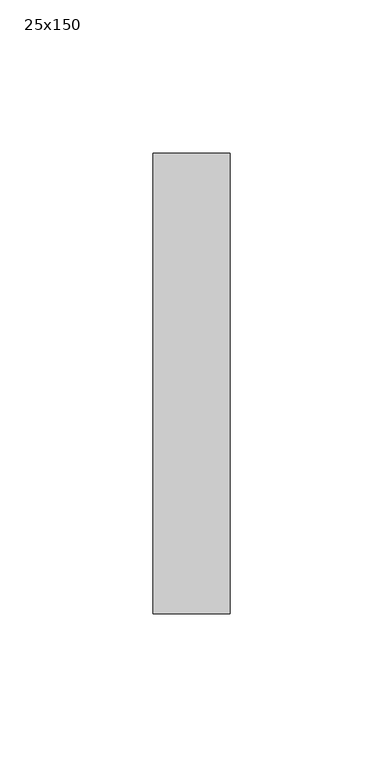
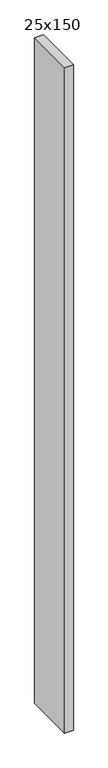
"""IFC4 building model written with IfcOpenShell, lengths in millimetres: member geometry, 長方形のマリオン : 25x150."""

from ifc_helpers import new_model, si_unit, frame, origin, place, context, project, spatial, polyline, outline, extrude, source, transform, mapped, element, save


def member_25x150_4c9d34cf(model_context):
    return source(origin(), model_context, "Body", "SweptSolid", [
        extrude(outline(polyline([(0.0, 75.0), (0.0, -75.0), (-25.0, -75.0), (-25.0, 75.0), (0.0, 75.0)])), frame((0.0, 0.0, -2033.3333331), z_axis=(0.0, 0.0, 1.0), x_axis=(1.0, 0.0, 0.0)), (0.0, 0.0, 1.0), 2033.3333331),
    ])


if __name__ == "__main__":
    model = new_model("IFC4")
    model_context = context("Model", 3, world=origin())
    ifc_project = project(units=[si_unit("LENGTHUNIT", "METRE", prefix="MILLI")], contexts=[model_context])
    site = spatial("IfcSite", under=ifc_project)
    building = spatial("IfcBuilding", under=site)
    placement = place(None, origin())
    member_25x150_shape = member_25x150_4c9d34cf(model_context)
    element("IfcMember", 1, ObjectType="長方形のマリオン : 25x150", at=placement, inside=building, context=model_context, shape_type="MappedRepresentation", body=[
        mapped(member_25x150_shape, transform((0.0, 0.0, 0.0), x_axis=(1.0, 0.0, 0.0), y_axis=(0.0, 1.0, 0.0), z_axis=(0.0, 0.0, 1.0))),
    ])
    save(model, "model.ifc")
